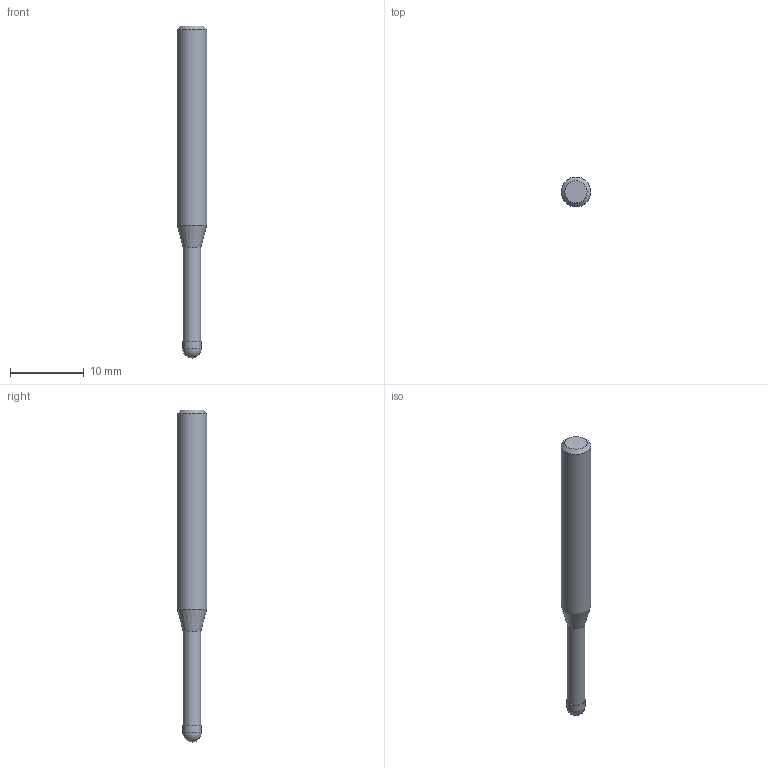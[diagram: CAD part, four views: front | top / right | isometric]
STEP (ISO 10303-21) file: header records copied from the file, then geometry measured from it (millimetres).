
FILE_DESCRIPTION((''),'2;1');
FILE_NAME('C:\Users\nsx150\AppData\Local\Temp\Mastercam 2021\QT8KEW0Y7J\TEMP.step','2021-04-23T11:21:41',(''),(''),'STEP Write','Mastercam 2021 ... CNC Software, Inc.','');
FILE_SCHEMA(('AUTOMOTIVE_DESIGN'));
Length unit declared in the file: millimetre
Products named in the file (1): None
Bounding box: 4 x 4 x 45 mm (x, y, z)
Volume: 429.2 mm3; surface area: 502.4 mm2
Topology: 2 solids, 2 shells, 9 faces, 14 edges, 8 vertices
Faces by surface type: plane 3, cylinder 3, cone 2, sphere 1
Full cylindrical faces by diameter (mm): 2.4 x1, 2.5 x1, 4 x1
Entity records: 211 total; most frequent: DIRECTION 36, CARTESIAN_POINT 25, AXIS2_PLACEMENT_3D 18, ORIENTED_EDGE 14, EDGE_LOOP 14, STYLED_ITEM 12, ADVANCED_FACE 9, FACE_BOUND 8
